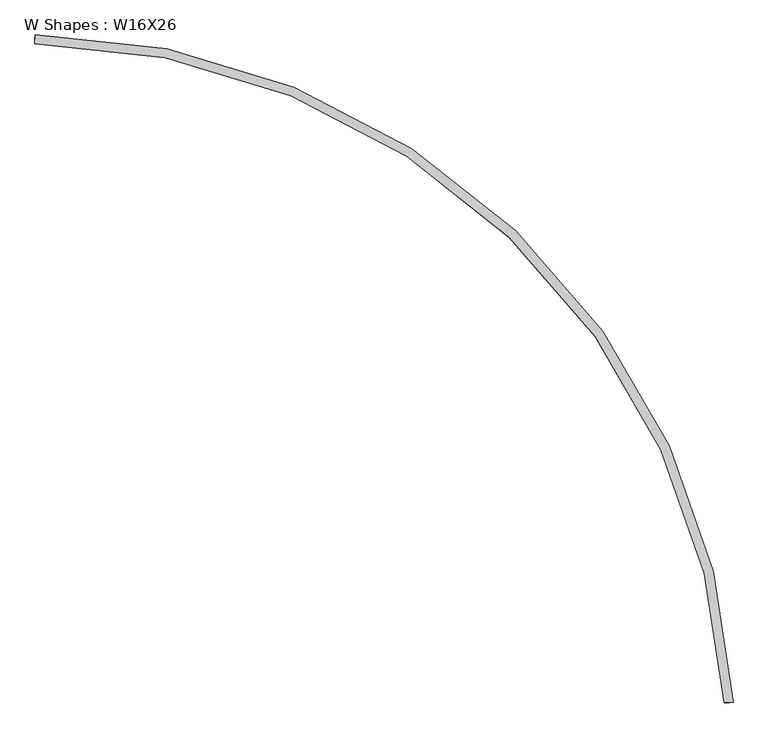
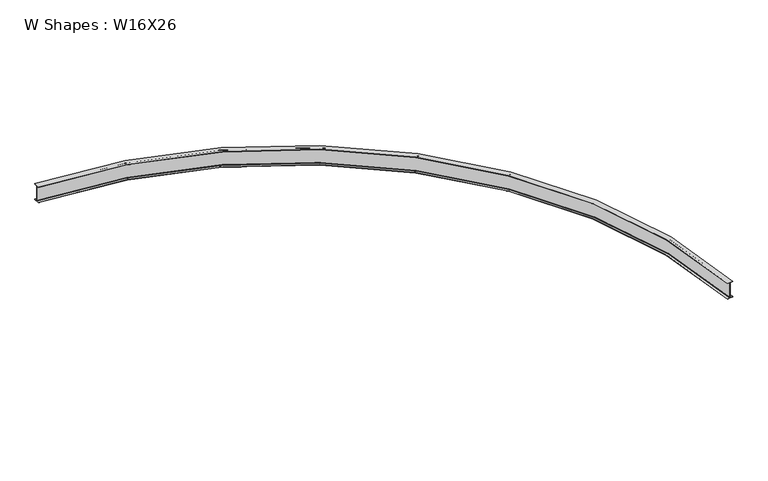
"""IFC4 building model written with IfcOpenShell, lengths in millimetres: beam geometry, W Shapes : W16X26."""

from ifc_helpers import new_model, si_unit, point, frame, origin, place, context, project, spatial, polyline, circle_curve, ellipse_curve, trimmed, source, transform, mapped, element, save
from ifc_brep_helpers import plane_surface, cylinder_surface, revolved_surface, advanced_brep


def w_shapes_w16x26_79f6515c(model_context):
    return source(origin(), model_context, "Body", "AdvancedBrep", [
        advanced_brep(
        [(10904.3196672, -10235.606818, -190.627), (10847.9454252, -10238.792837, -190.627), (10837.7508929, -10239.3689862, -180.4162), (10837.7508929, -10239.3689862, 180.4162), (10847.9454252, -10238.792837, 190.627), (10904.3196672, -10235.606818, 190.627), (10904.3196672, -10235.606818, 199.39), (10764.8422353, -10243.4894562, 199.39), (10764.8422353, -10243.4894562, 190.627), (10821.2164773, -10240.3034372, 190.627), (10831.4110096, -10239.727288, 180.4162), (10831.4110096, -10239.727288, -180.4162), (10821.2164773, -10240.3034372, -190.627), (10764.8422353, -10243.4894562, -190.627), (10764.8422353, -10243.4894562, -199.39), (10904.3196672, -10235.606818, -199.39), (126.5000868, 69.1173861, -190.627), (126.5000868, 69.1173861, -199.39), (124.8820209, -70.5732431, -199.39), (124.8820209, -70.5732431, -190.627), (125.5360137, -14.1128306, -190.627), (125.6542796, -3.9027155, -180.4162), (125.6542796, -3.9027155, 180.4162), (125.5360137, -14.1128306, 190.627), (124.8820209, -70.5732431, 190.627), (124.8820209, -70.5732431, 199.39), (126.5000868, 69.1173861, 199.39), (126.5000868, 69.1173861, 190.627), (125.846094, 12.6569736, 190.627), (125.7278281, 2.4468585, 180.4162), (125.7278281, 2.4468585, -180.4162), (125.846094, 12.6569736, -190.627)],
        [
            (0, 1),
            (1, 2, circle_curve(frame((10847.9454252, -10238.792837, -180.4162), z_axis=(-0.05642546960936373, 0.9984068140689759, 0.0), x_axis=(-0.9984068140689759, -0.05642546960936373, 0.0)), 10.2108)),
            (2, 3),
            (3, 4, circle_curve(frame((10847.9454252, -10238.792837, 180.4162), z_axis=(-0.05642546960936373, 0.9984068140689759, 0.0), x_axis=(-0.9984068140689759, -0.05642546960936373, 0.0)), 10.2108)),
            (4, 5),
            (5, 6),
            (6, 7),
            (7, 8),
            (8, 9),
            (9, 10, circle_curve(frame((10821.2164773, -10240.3034372, 180.4162), z_axis=(-0.05642546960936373, 0.9984068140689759, 0.0), x_axis=(-0.9984068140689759, -0.05642546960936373, 0.0)), 10.2108)),
            (10, 11),
            (11, 12, circle_curve(frame((10821.2164773, -10240.3034372, -180.4162), z_axis=(-0.05642546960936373, 0.9984068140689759, 0.0), x_axis=(-0.9984068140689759, -0.05642546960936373, 0.0)), 10.2108)),
            (12, 13),
            (13, 14),
            (14, 15),
            (15, 0),
            (16, 17),
            (17, 18),
            (18, 19),
            (19, 20),
            (20, 21, circle_curve(frame((125.5360137, -14.1128306, -180.4162), z_axis=(0.9999329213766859, -0.011582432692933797, 0.0), x_axis=(-0.011582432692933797, -0.9999329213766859, 0.0)), 10.2108)),
            (21, 22),
            (22, 23, circle_curve(frame((125.5360137, -14.1128306, 180.4162), z_axis=(0.9999329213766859, -0.011582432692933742, 0.0), x_axis=(-0.011582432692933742, -0.9999329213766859, 0.0)), 10.2108)),
            (23, 24),
            (24, 25),
            (25, 26),
            (26, 27),
            (27, 28),
            (28, 29, circle_curve(frame((125.846094, 12.6569736, 180.4162), z_axis=(0.9999329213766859, -0.011582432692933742, 0.0), x_axis=(-0.011582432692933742, -0.9999329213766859, 0.0)), 10.2108)),
            (29, 30),
            (30, 31, circle_curve(frame((125.846094, 12.6569736, -180.4162), z_axis=(0.9999329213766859, -0.011582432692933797, 0.0), x_axis=(-0.011582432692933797, -0.9999329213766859, 0.0)), 10.2108)),
            (31, 16),
            (0, 16, circle_curve(frame((0.0, -10851.8699979, -190.627), z_axis=(0.0, 0.0, 1.0), x_axis=(-0.7227923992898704, 0.691065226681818, 0.0)), 10921.7199979)),
            (31, 1, circle_curve(frame((0.0, -10851.8699979, -190.627), z_axis=(0.0, 0.0, -1.0), x_axis=(-0.7227923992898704, 0.691065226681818, 0.0)), 10865.2557979)),
            (30, 2, circle_curve(frame((0.0, -10851.8699979, -180.4162), z_axis=(0.0, 0.0, -1.0), x_axis=(-0.7227923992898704, 0.691065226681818, 0.0)), 10855.0449979)),
            (29, 3, circle_curve(frame((0.0, -10851.8699979, 180.4162), z_axis=(0.0, 0.0, -1.0), x_axis=(-0.7227923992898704, 0.691065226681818, 0.0)), 10855.0449979)),
            (28, 4, circle_curve(frame((0.0, -10851.8699979, 190.627), z_axis=(0.0, 0.0, -1.0), x_axis=(-0.7227923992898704, 0.691065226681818, 0.0)), 10865.2557979)),
            (27, 5, circle_curve(frame((0.0, -10851.8699979, 190.627), z_axis=(0.0, 0.0, -1.0), x_axis=(-0.7227923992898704, 0.691065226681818, 0.0)), 10921.7199979)),
            (26, 6, circle_curve(frame((0.0, -10851.8699979, 199.39), z_axis=(0.0, 0.0, -1.0), x_axis=(-0.7227923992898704, 0.691065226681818, 0.0)), 10921.7199979)),
            (25, 7, circle_curve(frame((0.0, -10851.8699979, 199.39), z_axis=(0.0, 0.0, -1.0), x_axis=(-0.7227923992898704, 0.691065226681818, 0.0)), 10782.0199979)),
            (24, 8, circle_curve(frame((0.0, -10851.8699979, 190.627), z_axis=(0.0, 0.0, -1.0), x_axis=(-0.7227923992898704, 0.691065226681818, 0.0)), 10782.0199979)),
            (23, 9, circle_curve(frame((0.0, -10851.8699979, 190.627), z_axis=(0.0, 0.0, -1.0), x_axis=(-0.7227923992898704, 0.691065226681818, 0.0)), 10838.4841979)),
            (22, 10, circle_curve(frame((0.0, -10851.8699979, 180.4162), z_axis=(0.0, 0.0, -1.0), x_axis=(-0.7227923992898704, 0.691065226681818, 0.0)), 10848.6949979)),
            (21, 11, circle_curve(frame((0.0, -10851.8699979, -180.4162), z_axis=(0.0, 0.0, -1.0), x_axis=(-0.7227923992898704, 0.691065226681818, 0.0)), 10848.6949979)),
            (20, 12, circle_curve(frame((0.0, -10851.8699979, -190.627), z_axis=(0.0, 0.0, -1.0), x_axis=(-0.7227923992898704, 0.691065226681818, 0.0)), 10838.4841979)),
            (19, 13, circle_curve(frame((0.0, -10851.8699979, -190.627), z_axis=(0.0, 0.0, -1.0), x_axis=(-0.7227923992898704, 0.691065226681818, 0.0)), 10782.0199979)),
            (18, 14, circle_curve(frame((0.0, -10851.8699979, -199.39), z_axis=(0.0, 0.0, -1.0), x_axis=(-0.7227923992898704, 0.691065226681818, 0.0)), 10782.0199979)),
            (17, 15, circle_curve(frame((0.0, -10851.8699979, -199.39), z_axis=(0.0, 0.0, -1.0), x_axis=(-0.7227923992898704, 0.691065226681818, 0.0)), 10921.7199979)),
        ],
        [
            plane_surface(frame((10834.5809513, -10239.5481371, 0.0), z_axis=(0.05642546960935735, -0.9984068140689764, 0.0), x_axis=(0.0, 0.0, 1.0))),
            plane_surface(frame((125.6910538, -0.7279285, 0.0), z_axis=(-0.9999329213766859, 0.011582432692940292, 0.0), x_axis=(0.0, 0.0, 1.0))),
            plane_surface(frame((0.0, -10851.8699979, -190.627), z_axis=(0.0, 0.0, 1.0), x_axis=(-0.7227923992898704, 0.691065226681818, 0.0))),
            revolved_surface(trimmed(ellipse_curve(frame((-7853.324307, -3343.269537, -180.4162), z_axis=(0.6910652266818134, 0.7227923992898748, 0.0), x_axis=(0.7227923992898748, -0.6910652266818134, 0.0)), 10.2108, 10.2108), [point((-7845.9440184, -3350.3258658, -180.4162))], [point((-7853.324307, -3343.269537, -190.627))], True, "CARTESIAN"), (0.0, -10851.8699979, 0.0), (0.0, 0.0, -1.0)),
            cylinder_surface(frame((0.0, -10851.8699979, 0.0), z_axis=(0.0, 0.0, -1.0), x_axis=(-0.7227923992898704, 0.691065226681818, 0.0)), 10855.0449979),
            revolved_surface(trimmed(ellipse_curve(frame((-7853.324307, -3343.269537, 180.4162), z_axis=(0.6910652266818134, 0.7227923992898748, 0.0), x_axis=(0.7227923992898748, -0.6910652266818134, 0.0)), 10.2108, 10.2108), [point((-7853.324307, -3343.269537, 190.627))], [point((-7845.9440184, -3350.3258658, 180.4162))], True, "CARTESIAN"), (0.0, -10851.8699979, 0.0), (0.0, 0.0, -1.0)),
            plane_surface(frame((0.0, -10851.8699979, 190.627), z_axis=(0.0, 0.0, -1.0), x_axis=(-0.7227923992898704, 0.691065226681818, 0.0))),
            cylinder_surface(frame((0.0, -10851.8699979, 0.0), z_axis=(0.0, 0.0, -1.0), x_axis=(-0.7227923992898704, 0.691065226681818, 0.0)), 10921.7199979),
            plane_surface(frame((0.0, -10851.8699979, 199.39), z_axis=(0.0, 0.0, 1.0), x_axis=(-0.7227923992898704, 0.691065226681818, 0.0))),
            revolved_surface(polyline([(-7793.162103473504, -3400.7909039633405, 190.627), (-7793.162103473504, -3400.7909039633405, 199.39)]), (0.0, -10851.8699979, 0.0), (0.0, 0.0, -1.0)),
            revolved_surface(trimmed(ellipse_curve(frame((-7833.973998, -3361.7704588, 180.4162), z_axis=(0.6910652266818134, 0.7227923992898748, 0.0), x_axis=(0.7227923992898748, -0.6910652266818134, 0.0)), 10.2108, 10.2108), [point((-7841.3542867, -3354.71413, 180.4162))], [point((-7833.973998, -3361.7704588, 190.627))], True, "CARTESIAN"), (0.0, -10851.8699979, 0.0), (0.0, 0.0, -1.0)),
            revolved_surface(polyline([(-7841.354286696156, -3354.7141299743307, -180.4162), (-7841.354286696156, -3354.7141299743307, 180.4162)]), (0.0, -10851.8699979, 0.0), (0.0, 0.0, -1.0)),
            revolved_surface(trimmed(ellipse_curve(frame((-7833.973998, -3361.7704588, -180.4162), z_axis=(0.6910652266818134, 0.7227923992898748, 0.0), x_axis=(0.7227923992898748, -0.6910652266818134, 0.0)), 10.2108, 10.2108), [point((-7833.973998, -3361.7704588, -190.627))], [point((-7841.3542867, -3354.71413, -180.4162))], True, "CARTESIAN"), (0.0, -10851.8699979, 0.0), (0.0, 0.0, -1.0)),
            revolved_surface(polyline([(-7793.162103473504, -3400.7909039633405, -199.39), (-7793.162103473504, -3400.7909039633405, -190.627)]), (0.0, -10851.8699979, 0.0), (0.0, 0.0, -1.0)),
            plane_surface(frame((0.0, -10851.8699979, -199.39), z_axis=(0.0, 0.0, -1.0), x_axis=(-0.7227923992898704, 0.691065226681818, 0.0))),
        ],
        [
            (0, [[1, 2, 3, 4, 5, 6, 7, 8, 9, 10, 11, 12, 13, 14, 15, 16]]),
            (1, [[17, 18, 19, 20, 21, 22, 23, 24, 25, 26, 27, 28, 29, 30, 31, 32]]),
            (2, [[-1, 33, -32, 34]]),
            (3, [[-2, -34, -31, 35]]),
            (4, [[-3, -35, -30, 36]]),
            (5, [[-4, -36, -29, 37]]),
            (6, [[-5, -37, -28, 38]]),
            (7, [[-6, -38, -27, 39]]),
            (8, [[-7, -39, -26, 40]]),
            (9, [[-8, -40, -25, 41]]),
            (6, [[-9, -41, -24, 42]]),
            (10, [[-10, -42, -23, 43]]),
            (11, [[-11, -43, -22, 44]]),
            (12, [[-12, -44, -21, 45]]),
            (2, [[-13, -45, -20, 46]]),
            (13, [[-14, -46, -19, 47]]),
            (14, [[-15, -47, -18, 48]]),
            (7, [[-16, -48, -17, -33]]),
        ],
    ),
    ])


if __name__ == "__main__":
    model = new_model("IFC4")
    model_context = context("Model", 3, world=origin())
    ifc_project = project(units=[si_unit("LENGTHUNIT", "METRE", prefix="MILLI")], contexts=[model_context])
    site = spatial("IfcSite", under=ifc_project)
    building = spatial("IfcBuilding", under=site)
    placement = place(None, origin())
    w_shapes_w16x26_shape = w_shapes_w16x26_79f6515c(model_context)
    element("IfcBeam", 1, ObjectType="W Shapes : W16X26", at=placement, inside=building, context=model_context, shape_type="MappedRepresentation", body=[
        mapped(w_shapes_w16x26_shape, transform((0.0, 0.0, 0.0), x_axis=(1.0, 0.0, 0.0), y_axis=(0.0, 1.0, 0.0), z_axis=(0.0, 0.0, 1.0))),
    ])
    save(model, "model.ifc")
